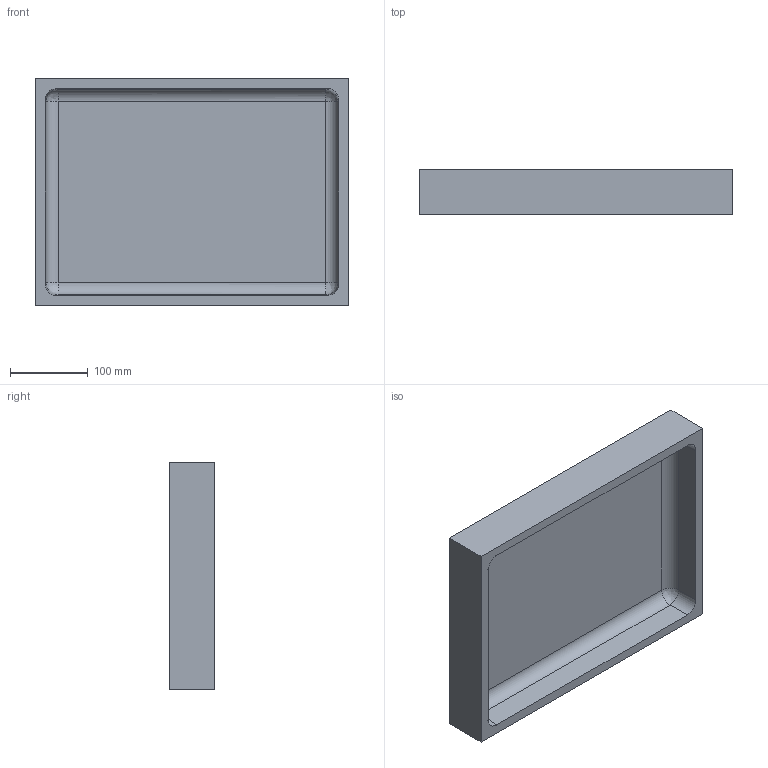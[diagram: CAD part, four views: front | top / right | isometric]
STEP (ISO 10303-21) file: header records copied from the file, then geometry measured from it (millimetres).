
FILE_DESCRIPTION (( 'STEP AP214' ), '1' );
FILE_NAME ('1452-931F Top PID 5-03-2026.STEP', '2026-05-04T04:43:03', ( '' ), ( '' ), 'SwSTEP 2.0', 'SolidWorks 2025', '' );
FILE_SCHEMA (( 'AUTOMOTIVE_DESIGN' ));
Length unit declared in the file: inch
Products named in the file (1): 1452-931F Top PID 5-03-2026
Bounding box: 403.11 x 58.06 x 292.04 mm (x, y, z)
Volume: 2383610.8 mm3; surface area: 363184.9 mm2
Topology: 1 solids, 1 shells, 31 faces, 72 edges, 44 vertices
Faces by surface type: bspline 20, plane 11
Entity records: 1672 total; most frequent: CARTESIAN_POINT 1107, ORIENTED_EDGE 144, EDGE_CURVE 72, DIRECTION 56, VERTEX_POINT 44, EDGE_LOOP 32, LINE 32, VECTOR 32
